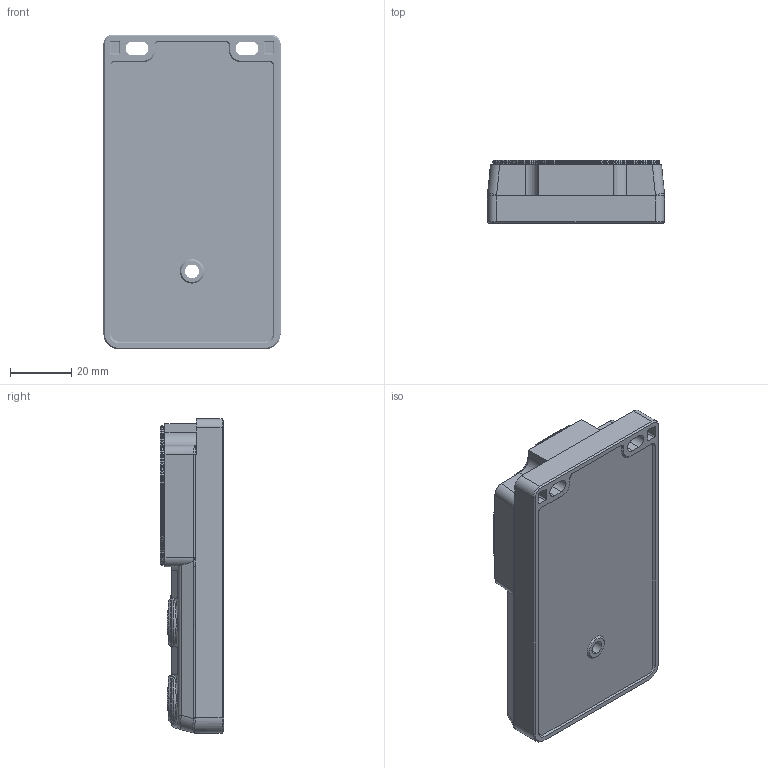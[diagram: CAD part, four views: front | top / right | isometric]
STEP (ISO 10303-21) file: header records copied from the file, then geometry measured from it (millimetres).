
FILE_DESCRIPTION((''),'2;1');
FILE_NAME('24P40G','2022-06-01T',('PC'),(''),'PRO/ENGINEER BY PARAMETRIC TECHNOLOGY CORPORATION, 2009220','PRO/ENGINEER BY PARAMETRIC TECHNOLOGY CORPORATION, 2009220','');
FILE_SCHEMA(('CONFIG_CONTROL_DESIGN'));
Products named in the file (1): 24P40G
Bounding box: 58 x 20.7 x 103 mm (x, y, z)
Volume: 1502.5 mm3; surface area: 35293.7 mm2
Topology: 20 solids, 29 shells, 3246 faces, 9322 edges, 6231 vertices
Faces by surface type: plane 1550, cylinder 890, bspline 391, torus 201, cone 198, sphere 14, revolution 2
Full cylindrical faces by diameter (mm): 1.5 x4, 1.6 x8
Entity records: 169124 total; most frequent: CARTESIAN_POINT 87143, ORIENTED_EDGE 18504, DIRECTION 15172, EDGE_CURVE 9312, VERTEX_POINT 6231, AXIS2_PLACEMENT_3D 5158, VECTOR 4854, LINE 4854
